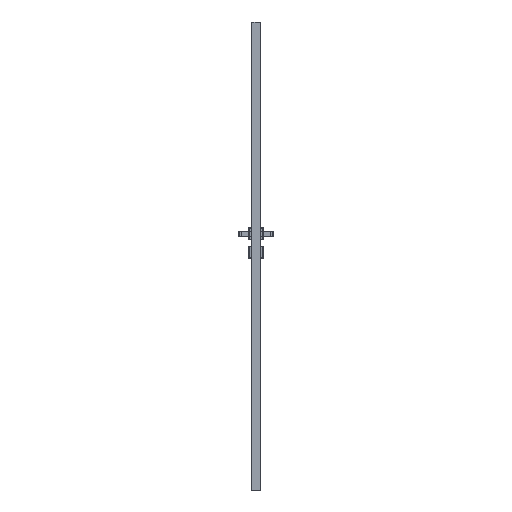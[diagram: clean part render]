
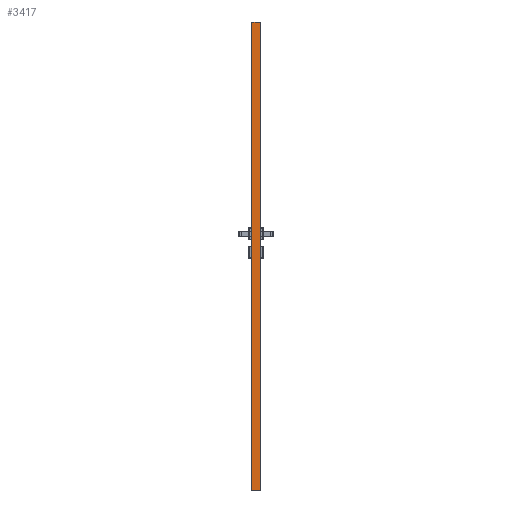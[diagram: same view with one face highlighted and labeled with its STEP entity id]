
A CAD part, left-side view. The second image highlights one B-rep face of the part: STEP entity #3417.
In plain terms, the highlighted planar face has unit normal (-1, 0, 0).
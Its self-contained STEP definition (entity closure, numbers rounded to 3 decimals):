
#3417=ADVANCED_FACE('',(#6061),#4759,.F.);
#4759=PLANE('',#32661);
#6061=FACE_OUTER_BOUND('',#7782,.T.);
#7782=EDGE_LOOP('',(#11874,#11875,#11876,#11877));
#11874=ORIENTED_EDGE('',*,*,#22619,.T.);
#11875=ORIENTED_EDGE('',*,*,#22620,.T.);
#11876=ORIENTED_EDGE('',*,*,#22621,.F.);
#11877=ORIENTED_EDGE('',*,*,#22622,.T.);
#19117=VERTEX_POINT('',#51333);
#19118=VERTEX_POINT('',#51334);
#19119=VERTEX_POINT('',#51336);
#19120=VERTEX_POINT('',#51338);
#22619=EDGE_CURVE('',#19117,#19118,#26500,.T.);
#22620=EDGE_CURVE('',#19118,#19119,#26501,.T.);
#22621=EDGE_CURVE('',#19120,#19119,#26502,.T.);
#22622=EDGE_CURVE('',#19120,#19117,#26503,.T.);
#26500=LINE('',#51332,#29515);
#26501=LINE('',#51335,#29516);
#26502=LINE('',#51337,#29517);
#26503=LINE('',#51339,#29518);
#29515=VECTOR('',#37413,1.);
#29516=VECTOR('',#37414,1.);
#29517=VECTOR('',#37415,1.);
#29518=VECTOR('',#37416,1.);
#32661=AXIS2_PLACEMENT_3D('',#51340,#37417,#37418);
#37413=DIRECTION('',(0.,0.,1.));
#37414=DIRECTION('',(0.,1.,0.));
#37415=DIRECTION('',(0.,0.,1.));
#37416=DIRECTION('',(0.,-1.,0.));
#37417=DIRECTION('',(1.,0.,0.));
#37418=DIRECTION('',(0.,1.,0.));
#51332=CARTESIAN_POINT('',(-309.,-38.35,0.));
#51333=CARTESIAN_POINT('',(-309.,-38.35,0.));
#51334=CARTESIAN_POINT('',(-309.,-38.35,2017.01));
#51335=CARTESIAN_POINT('',(-309.,0.,2017.01));
#51336=CARTESIAN_POINT('',(-309.,-1.65,2017.01));
#51337=CARTESIAN_POINT('',(-309.,-1.65,0.));
#51338=CARTESIAN_POINT('',(-309.,-1.65,0.));
#51339=CARTESIAN_POINT('',(-309.,-38.35,0.));
#51340=CARTESIAN_POINT('',(-309.,-38.35,0.));
